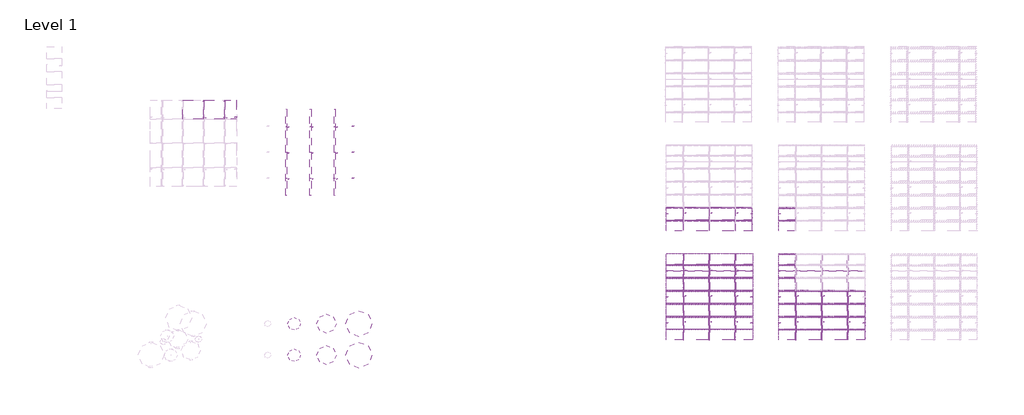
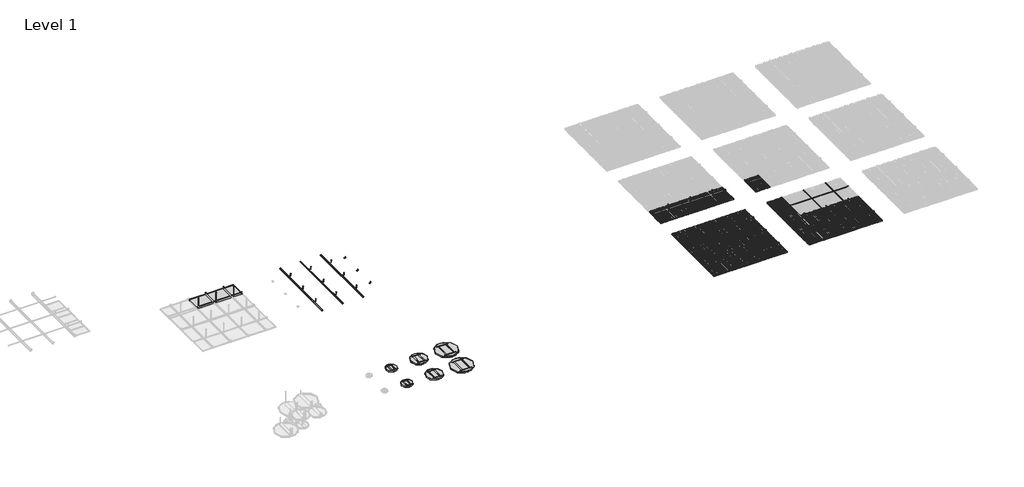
# One storey, part 10 of 32: 136 proxies.
"""IFC4 building model written with IfcOpenShell, lengths in millimetres."""

from ifc_helpers import new_model, si_unit, origin, place, context, project, spatial, transform, mapped, element, save
from components import generic_models_f4ce44e0, generic_models_7b14c66c, generic_models_6a16b8e9, generic_models_f8a980df, generic_models_c359a8ca, generic_models_b45cf8b7, generic_models_08d26d29, generic_models_ed86a27e, generic_models_145bddcd, generic_models_58272551, generic_models_21e3bb4c, generic_models_b3dbf1f4, generic_models_706eee53, generic_models_723ebf24, generic_models_29d42799, generic_models_36cb1d09, generic_models_96b5d85b, generic_models_f6474ad0, generic_models_de489b00, generic_models_cba988bb, generic_models_f79c98f9, generic_models_96ebd3ea, generic_models_197b3773, generic_models_3130f17a, generic_models_9e18e937, generic_models_28f6a95c, generic_models_4432ad25, generic_models_d4a175eb, generic_models_9ccf16c1, generic_models_13996165, generic_models_57176d63

model = new_model("IFC4")

# Units and contexts
model_context = context("Model", 3, world=origin())
ifc_project = project(units=[si_unit("LENGTHUNIT", "METRE", prefix="MILLI")], contexts=[model_context])

# Site, building, storey
site = spatial("IfcSite", under=ifc_project)
building = spatial("IfcBuilding", under=site)
storey = spatial("IfcBuildingStorey", under=building, Name="Level 1", Elevation=0.0)

# Proxies
placement = place(None, origin())
generic_models_shape = generic_models_f4ce44e0(model_context)
element("IfcBuildingElementProxy", 1, Name="durlum_U94 : durlum_U94", ObjectType="durlum_U94 : durlum_U94", at=placement, inside=storey, context=model_context, shape_type="MappedRepresentation", body=[
    mapped(generic_models_shape, transform((36018.6409714, -12159.3698822, 3724.0), x_axis=(0.0, 1.0, 0.0), y_axis=(-1.0, 0.0, 0.0), z_axis=(0.0, 0.0, 1.0))),
])
element("IfcBuildingElementProxy", 2, Name="durlum_U94 : durlum_U94", ObjectType="durlum_U94 : durlum_U94", at=placement, inside=storey, context=model_context, shape_type="MappedRepresentation", body=[
    mapped(generic_models_shape, transform((34818.6409714, -12159.3698822, 3724.0), x_axis=(0.0, 1.0, 0.0), y_axis=(-1.0, 0.0, 0.0), z_axis=(0.0, 0.0, 1.0))),
])
element("IfcBuildingElementProxy", 3, Name="durlum_U94 : durlum_U94", ObjectType="durlum_U94 : durlum_U94", at=placement, inside=storey, context=model_context, shape_type="MappedRepresentation", body=[
    mapped(generic_models_shape, transform((37218.6409714, -12159.3698822, 3724.0), x_axis=(0.0, 1.0, 0.0), y_axis=(-1.0, 0.0, 0.0), z_axis=(0.0, 0.0, 1.0))),
])
element("IfcBuildingElementProxy", 4, Name="durlum_U94 : durlum_U94", ObjectType="durlum_U94 : durlum_U94", at=placement, inside=storey, context=model_context, shape_type="MappedRepresentation", body=[
    mapped(generic_models_shape, transform((41218.6409714, -12159.3698822, 3724.0), x_axis=(0.0, 1.0, 0.0), y_axis=(-1.0, 0.0, 0.0), z_axis=(0.0, 0.0, 1.0))),
])
element("IfcBuildingElementProxy", 5, Name="durlum_U94 : durlum_U94", ObjectType="durlum_U94 : durlum_U94", at=placement, inside=storey, context=model_context, shape_type="MappedRepresentation", body=[
    mapped(generic_models_shape, transform((40018.6409714, -12159.3698822, 3724.0), x_axis=(0.0, 1.0, 0.0), y_axis=(-1.0, 0.0, 0.0), z_axis=(0.0, 0.0, 1.0))),
])
element("IfcBuildingElementProxy", 6, Name="durlum_U94 : durlum_U94", ObjectType="durlum_U94 : durlum_U94", at=placement, inside=storey, context=model_context, shape_type="MappedRepresentation", body=[
    mapped(generic_models_shape, transform((42418.6409714, -12159.3698822, 3724.0), x_axis=(0.0, 1.0, 0.0), y_axis=(-1.0, 0.0, 0.0), z_axis=(0.0, 0.0, 1.0))),
])
generic_models_2_shape = generic_models_7b14c66c(model_context)
element("IfcBuildingElementProxy", 7, Name="durlum_GEO_panel : durlum_GEO_9", ObjectType="durlum_GEO_panel : durlum_GEO_9", at=placement, inside=storey, context=model_context, shape_type="MappedRepresentation", body=[
    mapped(generic_models_2_shape, transform((35412.2666746, -8312.09776, 3700.0), x_axis=(1.0, 0.0, 0.0), y_axis=(0.0, 1.0, 0.0), z_axis=(0.0, 0.0, 1.0))),
])
element("IfcBuildingElementProxy", 8, Name="durlum_GEO_panel : durlum_GEO_9", ObjectType="durlum_GEO_panel : durlum_GEO_9", at=placement, inside=storey, context=model_context, shape_type="MappedRepresentation", body=[
    mapped(generic_models_2_shape, transform((36612.2666746, -8312.09776, 3700.0), x_axis=(1.0, 0.0, 0.0), y_axis=(0.0, 1.0, 0.0), z_axis=(0.0, 0.0, 1.0))),
])
generic_models_3_shape = generic_models_6a16b8e9(model_context)
element("IfcBuildingElementProxy", 9, Name="durlum_GEO_panel : durlum_GEO_9_width_cut", ObjectType="durlum_GEO_panel : durlum_GEO_9_width_cut", at=placement, inside=storey, context=model_context, shape_type="MappedRepresentation", body=[
    mapped(generic_models_3_shape, transform((35412.2666746, -8862.09776, 3700.0), x_axis=(1.0, 0.0, 0.0), y_axis=(0.0, 1.0, 0.0), z_axis=(0.0, 0.0, 1.0))),
])
element("IfcBuildingElementProxy", 10, Name="durlum_GEO_panel : durlum_GEO_9_width_cut", ObjectType="durlum_GEO_panel : durlum_GEO_9_width_cut", at=placement, inside=storey, context=model_context, shape_type="MappedRepresentation", body=[
    mapped(generic_models_3_shape, transform((36612.2666746, -8862.09776, 3700.0), x_axis=(1.0, 0.0, 0.0), y_axis=(0.0, 1.0, 0.0), z_axis=(0.0, 0.0, 1.0))),
])
generic_models_4_shape = generic_models_f8a980df(model_context)
element("IfcBuildingElementProxy", 11, Name="durlum_GEO_panel : durlum_GEO_15", ObjectType="durlum_GEO_panel : durlum_GEO_15", at=placement, inside=storey, context=model_context, shape_type="MappedRepresentation", body=[
    mapped(generic_models_4_shape, transform((35418.6409714, -12759.3698822, 3700.0), x_axis=(1.0, 0.0, 0.0), y_axis=(0.0, 1.0, 0.0), z_axis=(0.0, 0.0, 1.0))),
])
element("IfcBuildingElementProxy", 12, Name="durlum_GEO_panel : durlum_GEO_15", ObjectType="durlum_GEO_panel : durlum_GEO_15", at=placement, inside=storey, context=model_context, shape_type="MappedRepresentation", body=[
    mapped(generic_models_4_shape, transform((36618.6409714, -12759.3698822, 3700.0), x_axis=(1.0, 0.0, 0.0), y_axis=(0.0, 1.0, 0.0), z_axis=(0.0, 0.0, 1.0))),
])
element("IfcBuildingElementProxy", 13, Name="durlum_GEO_panel : durlum_GEO_15", ObjectType="durlum_GEO_panel : durlum_GEO_15", at=placement, inside=storey, context=model_context, shape_type="MappedRepresentation", body=[
    mapped(generic_models_4_shape, transform((35418.6409714, -12159.3698822, 3700.0), x_axis=(1.0, 0.0, 0.0), y_axis=(0.0, 1.0, 0.0), z_axis=(0.0, 0.0, 1.0))),
])
element("IfcBuildingElementProxy", 14, Name="durlum_GEO_panel : durlum_GEO_15", ObjectType="durlum_GEO_panel : durlum_GEO_15", at=placement, inside=storey, context=model_context, shape_type="MappedRepresentation", body=[
    mapped(generic_models_4_shape, transform((36618.6409714, -12159.3698822, 3700.0), x_axis=(1.0, 0.0, 0.0), y_axis=(0.0, 1.0, 0.0), z_axis=(0.0, 0.0, 1.0))),
])
element("IfcBuildingElementProxy", 15, Name="durlum_GEO_panel : durlum_GEO_15", ObjectType="durlum_GEO_panel : durlum_GEO_15", at=placement, inside=storey, context=model_context, shape_type="MappedRepresentation", body=[
    mapped(generic_models_4_shape, transform((35418.6409714, -11559.3698822, 3700.0), x_axis=(1.0, 0.0, 0.0), y_axis=(0.0, 1.0, 0.0), z_axis=(0.0, 0.0, 1.0))),
])
element("IfcBuildingElementProxy", 16, Name="durlum_GEO_panel : durlum_GEO_15", ObjectType="durlum_GEO_panel : durlum_GEO_15", at=placement, inside=storey, context=model_context, shape_type="MappedRepresentation", body=[
    mapped(generic_models_4_shape, transform((36618.6409714, -11559.3698822, 3700.0), x_axis=(1.0, 0.0, 0.0), y_axis=(0.0, 1.0, 0.0), z_axis=(0.0, 0.0, 1.0))),
])
element("IfcBuildingElementProxy", 17, Name="durlum_GEO_panel : durlum_GEO_15", ObjectType="durlum_GEO_panel : durlum_GEO_15", at=placement, inside=storey, context=model_context, shape_type="MappedRepresentation", body=[
    mapped(generic_models_4_shape, transform((35418.6409714, -10959.3698822, 3700.0), x_axis=(1.0, 0.0, 0.0), y_axis=(0.0, 1.0, 0.0), z_axis=(0.0, 0.0, 1.0))),
])
element("IfcBuildingElementProxy", 18, Name="durlum_GEO_panel : durlum_GEO_15", ObjectType="durlum_GEO_panel : durlum_GEO_15", at=placement, inside=storey, context=model_context, shape_type="MappedRepresentation", body=[
    mapped(generic_models_4_shape, transform((36618.6409714, -10959.3698822, 3700.0), x_axis=(1.0, 0.0, 0.0), y_axis=(0.0, 1.0, 0.0), z_axis=(0.0, 0.0, 1.0))),
])
element("IfcBuildingElementProxy", 19, Name="durlum_GEO_panel : durlum_GEO_15", ObjectType="durlum_GEO_panel : durlum_GEO_15", at=placement, inside=storey, context=model_context, shape_type="MappedRepresentation", body=[
    mapped(generic_models_4_shape, transform((35418.6409714, -13359.3698822, 3700.0), x_axis=(1.0, 0.0, 0.0), y_axis=(0.0, 1.0, 0.0), z_axis=(0.0, 0.0, 1.0))),
])
element("IfcBuildingElementProxy", 20, Name="durlum_GEO_panel : durlum_GEO_15", ObjectType="durlum_GEO_panel : durlum_GEO_15", at=placement, inside=storey, context=model_context, shape_type="MappedRepresentation", body=[
    mapped(generic_models_4_shape, transform((36618.6409714, -13359.3698822, 3700.0), x_axis=(1.0, 0.0, 0.0), y_axis=(0.0, 1.0, 0.0), z_axis=(0.0, 0.0, 1.0))),
])
generic_models_5_shape = generic_models_c359a8ca(model_context)
element("IfcBuildingElementProxy", 21, Name="durlum_GEO_panel : durlum_GEO_15_width_cut", ObjectType="durlum_GEO_panel : durlum_GEO_15_width_cut", at=placement, inside=storey, context=model_context, shape_type="MappedRepresentation", body=[
    mapped(generic_models_5_shape, transform((35418.6409714, -13909.3698822, 3700.0), x_axis=(1.0, 0.0, 0.0), y_axis=(0.0, 1.0, 0.0), z_axis=(0.0, 0.0, 1.0))),
])
element("IfcBuildingElementProxy", 22, Name="durlum_GEO_panel : durlum_GEO_15_width_cut", ObjectType="durlum_GEO_panel : durlum_GEO_15_width_cut", at=placement, inside=storey, context=model_context, shape_type="MappedRepresentation", body=[
    mapped(generic_models_5_shape, transform((35418.6409714, -10409.3698822, 3700.0), x_axis=(1.0, 0.0, 0.0), y_axis=(0.0, 1.0, 0.0), z_axis=(0.0, 0.0, 1.0))),
])
element("IfcBuildingElementProxy", 23, Name="durlum_GEO_panel : durlum_GEO_15_width_cut", ObjectType="durlum_GEO_panel : durlum_GEO_15_width_cut", at=placement, inside=storey, context=model_context, shape_type="MappedRepresentation", body=[
    mapped(generic_models_5_shape, transform((36618.6409714, -13909.3698822, 3700.0), x_axis=(1.0, 0.0, 0.0), y_axis=(0.0, 1.0, 0.0), z_axis=(0.0, 0.0, 1.0))),
])
element("IfcBuildingElementProxy", 24, Name="durlum_GEO_panel : durlum_GEO_15_width_cut", ObjectType="durlum_GEO_panel : durlum_GEO_15_width_cut", at=placement, inside=storey, context=model_context, shape_type="MappedRepresentation", body=[
    mapped(generic_models_5_shape, transform((36618.6409714, -10409.3698822, 3700.0), x_axis=(1.0, 0.0, 0.0), y_axis=(0.0, 1.0, 0.0), z_axis=(0.0, 0.0, 1.0))),
])
generic_models_6_shape = generic_models_b45cf8b7(model_context)
element("IfcBuildingElementProxy", 25, Name="durlum_GEO_panel : durlum_GEO_15", ObjectType="durlum_GEO_panel : durlum_GEO_15", at=placement, inside=storey, context=model_context, shape_type="MappedRepresentation", body=[
    mapped(generic_models_6_shape, transform((40618.6409714, -12759.3698822, 3700.0), x_axis=(1.0, 0.0, 0.0), y_axis=(0.0, 1.0, 0.0), z_axis=(0.0, 0.0, 1.0))),
])
element("IfcBuildingElementProxy", 26, Name="durlum_GEO_panel : durlum_GEO_15", ObjectType="durlum_GEO_panel : durlum_GEO_15", at=placement, inside=storey, context=model_context, shape_type="MappedRepresentation", body=[
    mapped(generic_models_6_shape, transform((41818.6409714, -12759.3698822, 3700.0), x_axis=(1.0, 0.0, 0.0), y_axis=(0.0, 1.0, 0.0), z_axis=(0.0, 0.0, 1.0))),
])
element("IfcBuildingElementProxy", 27, Name="durlum_GEO_panel : durlum_GEO_15", ObjectType="durlum_GEO_panel : durlum_GEO_15", at=placement, inside=storey, context=model_context, shape_type="MappedRepresentation", body=[
    mapped(generic_models_6_shape, transform((40618.6409714, -12159.3698822, 3700.0), x_axis=(1.0, 0.0, 0.0), y_axis=(0.0, 1.0, 0.0), z_axis=(0.0, 0.0, 1.0))),
])
element("IfcBuildingElementProxy", 28, Name="durlum_GEO_panel : durlum_GEO_15", ObjectType="durlum_GEO_panel : durlum_GEO_15", at=placement, inside=storey, context=model_context, shape_type="MappedRepresentation", body=[
    mapped(generic_models_6_shape, transform((41818.6409714, -12159.3698822, 3700.0), x_axis=(1.0, 0.0, 0.0), y_axis=(0.0, 1.0, 0.0), z_axis=(0.0, 0.0, 1.0))),
])
element("IfcBuildingElementProxy", 29, Name="durlum_GEO_panel : durlum_GEO_15", ObjectType="durlum_GEO_panel : durlum_GEO_15", at=placement, inside=storey, context=model_context, shape_type="MappedRepresentation", body=[
    mapped(generic_models_6_shape, transform((40618.6409714, -13359.3698822, 3700.0), x_axis=(1.0, 0.0, 0.0), y_axis=(0.0, 1.0, 0.0), z_axis=(0.0, 0.0, 1.0))),
])
element("IfcBuildingElementProxy", 30, Name="durlum_GEO_panel : durlum_GEO_15", ObjectType="durlum_GEO_panel : durlum_GEO_15", at=placement, inside=storey, context=model_context, shape_type="MappedRepresentation", body=[
    mapped(generic_models_6_shape, transform((41818.6409714, -13359.3698822, 3700.0), x_axis=(1.0, 0.0, 0.0), y_axis=(0.0, 1.0, 0.0), z_axis=(0.0, 0.0, 1.0))),
])
generic_models_7_shape = generic_models_08d26d29(model_context)
element("IfcBuildingElementProxy", 31, Name="durlum_GEO_panel : durlum_GEO_15_width_cut", ObjectType="durlum_GEO_panel : durlum_GEO_15_width_cut", at=placement, inside=storey, context=model_context, shape_type="MappedRepresentation", body=[
    mapped(generic_models_7_shape, transform((40618.6409714, -13909.3698822, 3700.0), x_axis=(1.0, 0.0, 0.0), y_axis=(0.0, 1.0, 0.0), z_axis=(0.0, 0.0, 1.0))),
])
element("IfcBuildingElementProxy", 32, Name="durlum_GEO_panel : durlum_GEO_15_width_cut", ObjectType="durlum_GEO_panel : durlum_GEO_15_width_cut", at=placement, inside=storey, context=model_context, shape_type="MappedRepresentation", body=[
    mapped(generic_models_7_shape, transform((41818.6409714, -13909.3698822, 3700.0), x_axis=(1.0, 0.0, 0.0), y_axis=(0.0, 1.0, 0.0), z_axis=(0.0, 0.0, 1.0))),
])
generic_models_8_shape = generic_models_ed86a27e(model_context)
element("IfcBuildingElementProxy", 33, Name="durlum_GEO_15 : durlum_GEO_15", ObjectType="durlum_GEO_15 : durlum_GEO_15", at=placement, inside=storey, context=model_context, shape_type="MappedRepresentation", body=[
    mapped(generic_models_8_shape, transform((36018.6409714, -12159.3698822, 0.0), x_axis=(1.0, 0.0, 0.0), y_axis=(0.0, 1.0, 0.0), z_axis=(0.0, 0.0, 1.0))),
])
generic_models_9_shape = generic_models_145bddcd(model_context)
element("IfcBuildingElementProxy", 34, Name="durlum_GEO_panel : durlum_GEO_9_length_cut", ObjectType="durlum_GEO_panel : durlum_GEO_9_length_cut", at=placement, inside=storey, context=model_context, shape_type="MappedRepresentation", body=[
    mapped(generic_models_9_shape, transform((34415.203823, -8312.09776, 3700.0), x_axis=(1.0, 0.0, 0.0), y_axis=(0.0, 1.0, 0.0), z_axis=(0.0, 0.0, 1.0))),
])
element("IfcBuildingElementProxy", 35, Name="durlum_GEO_panel : durlum_GEO_9_length_cut", ObjectType="durlum_GEO_panel : durlum_GEO_9_length_cut", at=placement, inside=storey, context=model_context, shape_type="MappedRepresentation", body=[
    mapped(generic_models_9_shape, transform((37609.3295262, -8312.09776, 3700.0), x_axis=(1.0, 0.0, 0.0), y_axis=(0.0, 1.0, 0.0), z_axis=(0.0, 0.0, 1.0))),
])
generic_models_10_shape = generic_models_58272551(model_context)
element("IfcBuildingElementProxy", 36, Name="durlum_GEO_panel : durlum_GEO_9_corner_cut", ObjectType="durlum_GEO_panel : durlum_GEO_9_corner_cut", at=placement, inside=storey, context=model_context, shape_type="MappedRepresentation", body=[
    mapped(generic_models_10_shape, transform((34415.203823, -8862.09776, 3700.0), x_axis=(1.0, 0.0, 0.0), y_axis=(0.0, 1.0, 0.0), z_axis=(0.0, 0.0, 1.0))),
])
element("IfcBuildingElementProxy", 37, Name="durlum_GEO_panel : durlum_GEO_9_corner_cut", ObjectType="durlum_GEO_panel : durlum_GEO_9_corner_cut", at=placement, inside=storey, context=model_context, shape_type="MappedRepresentation", body=[
    mapped(generic_models_10_shape, transform((37609.3295262, -8862.09776, 3700.0), x_axis=(1.0, 0.0, 0.0), y_axis=(0.0, 1.0, 0.0), z_axis=(0.0, 0.0, 1.0))),
])
generic_models_11_shape = generic_models_21e3bb4c(model_context)
element("IfcBuildingElementProxy", 38, Name="durlum_GEO_panel : durlum_GEO_15_length_cut", ObjectType="durlum_GEO_panel : durlum_GEO_15_length_cut", at=placement, inside=storey, context=model_context, shape_type="MappedRepresentation", body=[
    mapped(generic_models_11_shape, transform((34418.3909714, -11559.3698822, 3700.0), x_axis=(1.0, 0.0, 0.0), y_axis=(0.0, 1.0, 0.0), z_axis=(0.0, 0.0, 1.0))),
])
element("IfcBuildingElementProxy", 39, Name="durlum_GEO_panel : durlum_GEO_15_length_cut", ObjectType="durlum_GEO_panel : durlum_GEO_15_length_cut", at=placement, inside=storey, context=model_context, shape_type="MappedRepresentation", body=[
    mapped(generic_models_11_shape, transform((34418.3909714, -12159.3698822, 3700.0), x_axis=(1.0, 0.0, 0.0), y_axis=(0.0, 1.0, 0.0), z_axis=(0.0, 0.0, 1.0))),
])
element("IfcBuildingElementProxy", 40, Name="durlum_GEO_panel : durlum_GEO_15_length_cut", ObjectType="durlum_GEO_panel : durlum_GEO_15_length_cut", at=placement, inside=storey, context=model_context, shape_type="MappedRepresentation", body=[
    mapped(generic_models_11_shape, transform((34418.3909714, -12759.3698822, 3700.0), x_axis=(1.0, 0.0, 0.0), y_axis=(0.0, 1.0, 0.0), z_axis=(0.0, 0.0, 1.0))),
])
element("IfcBuildingElementProxy", 41, Name="durlum_GEO_panel : durlum_GEO_15_length_cut", ObjectType="durlum_GEO_panel : durlum_GEO_15_length_cut", at=placement, inside=storey, context=model_context, shape_type="MappedRepresentation", body=[
    mapped(generic_models_11_shape, transform((37618.8909714, -11559.3698822, 3700.0), x_axis=(1.0, 0.0, 0.0), y_axis=(0.0, 1.0, 0.0), z_axis=(0.0, 0.0, 1.0))),
])
element("IfcBuildingElementProxy", 42, Name="durlum_GEO_panel : durlum_GEO_15_length_cut", ObjectType="durlum_GEO_panel : durlum_GEO_15_length_cut", at=placement, inside=storey, context=model_context, shape_type="MappedRepresentation", body=[
    mapped(generic_models_11_shape, transform((37618.8909714, -12159.3698822, 3700.0), x_axis=(1.0, 0.0, 0.0), y_axis=(0.0, 1.0, 0.0), z_axis=(0.0, 0.0, 1.0))),
])
element("IfcBuildingElementProxy", 43, Name="durlum_GEO_panel : durlum_GEO_15_length_cut", ObjectType="durlum_GEO_panel : durlum_GEO_15_length_cut", at=placement, inside=storey, context=model_context, shape_type="MappedRepresentation", body=[
    mapped(generic_models_11_shape, transform((37618.8909714, -12759.3698822, 3700.0), x_axis=(1.0, 0.0, 0.0), y_axis=(0.0, 1.0, 0.0), z_axis=(0.0, 0.0, 1.0))),
])
element("IfcBuildingElementProxy", 44, Name="durlum_GEO_panel : durlum_GEO_15_length_cut", ObjectType="durlum_GEO_panel : durlum_GEO_15_length_cut", at=placement, inside=storey, context=model_context, shape_type="MappedRepresentation", body=[
    mapped(generic_models_11_shape, transform((37618.8909714, -10959.3698822, 3700.0), x_axis=(1.0, 0.0, 0.0), y_axis=(0.0, 1.0, 0.0), z_axis=(0.0, 0.0, 1.0))),
])
element("IfcBuildingElementProxy", 45, Name="durlum_GEO_panel : durlum_GEO_15_length_cut", ObjectType="durlum_GEO_panel : durlum_GEO_15_length_cut", at=placement, inside=storey, context=model_context, shape_type="MappedRepresentation", body=[
    mapped(generic_models_11_shape, transform((34418.3909714, -10959.3698822, 3700.0), x_axis=(1.0, 0.0, 0.0), y_axis=(0.0, 1.0, 0.0), z_axis=(0.0, 0.0, 1.0))),
])
element("IfcBuildingElementProxy", 46, Name="durlum_GEO_panel : durlum_GEO_15_length_cut", ObjectType="durlum_GEO_panel : durlum_GEO_15_length_cut", at=placement, inside=storey, context=model_context, shape_type="MappedRepresentation", body=[
    mapped(generic_models_11_shape, transform((34418.3909714, -13359.3698822, 3700.0), x_axis=(1.0, 0.0, 0.0), y_axis=(0.0, 1.0, 0.0), z_axis=(0.0, 0.0, 1.0))),
])
element("IfcBuildingElementProxy", 47, Name="durlum_GEO_panel : durlum_GEO_15_length_cut", ObjectType="durlum_GEO_panel : durlum_GEO_15_length_cut", at=placement, inside=storey, context=model_context, shape_type="MappedRepresentation", body=[
    mapped(generic_models_11_shape, transform((37618.8909714, -13359.3698822, 3700.0), x_axis=(1.0, 0.0, 0.0), y_axis=(0.0, 1.0, 0.0), z_axis=(0.0, 0.0, 1.0))),
])
generic_models_12_shape = generic_models_b3dbf1f4(model_context)
element("IfcBuildingElementProxy", 48, Name="durlum_GEO_panel : durlum_GEO_15_corner_cut", ObjectType="durlum_GEO_panel : durlum_GEO_15_corner_cut", at=placement, inside=storey, context=model_context, shape_type="MappedRepresentation", body=[
    mapped(generic_models_12_shape, transform((37618.8909714, -10409.3698822, 3700.0), x_axis=(1.0, 0.0, 0.0), y_axis=(0.0, 1.0, 0.0), z_axis=(0.0, 0.0, 1.0))),
])
element("IfcBuildingElementProxy", 49, Name="durlum_GEO_panel : durlum_GEO_15_corner_cut", ObjectType="durlum_GEO_panel : durlum_GEO_15_corner_cut", at=placement, inside=storey, context=model_context, shape_type="MappedRepresentation", body=[
    mapped(generic_models_12_shape, transform((34418.3909714, -10409.3698822, 3700.0), x_axis=(1.0, 0.0, 0.0), y_axis=(0.0, 1.0, 0.0), z_axis=(0.0, 0.0, 1.0))),
])
element("IfcBuildingElementProxy", 50, Name="durlum_GEO_panel : durlum_GEO_15_corner_cut", ObjectType="durlum_GEO_panel : durlum_GEO_15_corner_cut", at=placement, inside=storey, context=model_context, shape_type="MappedRepresentation", body=[
    mapped(generic_models_12_shape, transform((34418.3909714, -13909.3698822, 3700.0), x_axis=(1.0, 0.0, 0.0), y_axis=(0.0, 1.0, 0.0), z_axis=(0.0, 0.0, 1.0))),
])
element("IfcBuildingElementProxy", 51, Name="durlum_GEO_panel : durlum_GEO_15_corner_cut", ObjectType="durlum_GEO_panel : durlum_GEO_15_corner_cut", at=placement, inside=storey, context=model_context, shape_type="MappedRepresentation", body=[
    mapped(generic_models_12_shape, transform((37618.8909714, -13909.3698822, 3700.0), x_axis=(1.0, 0.0, 0.0), y_axis=(0.0, 1.0, 0.0), z_axis=(0.0, 0.0, 1.0))),
])
element("IfcBuildingElementProxy", 52, Name="durlum_GEO_15 : durlum_GEO_15", ObjectType="durlum_GEO_15 : durlum_GEO_15", at=placement, inside=storey, context=model_context, shape_type="MappedRepresentation", body=[
    mapped(generic_models_8_shape, transform((41218.6409714, -12159.3698822, 0.0), x_axis=(1.0, 0.0, 0.0), y_axis=(0.0, 1.0, 0.0), z_axis=(0.0, 0.0, 1.0))),
])
generic_models_13_shape = generic_models_706eee53(model_context)
element("IfcBuildingElementProxy", 53, Name="durlum_GEO_panel : durlum_GEO_9_length_cut", ObjectType="durlum_GEO_panel : durlum_GEO_9_length_cut", at=placement, inside=storey, context=model_context, shape_type="MappedRepresentation", body=[
    mapped(generic_models_13_shape, transform((39615.203823, -8312.09776, 3700.0), x_axis=(1.0, 0.0, 0.0), y_axis=(0.0, 1.0, 0.0), z_axis=(0.0, 0.0, 1.0))),
])
generic_models_14_shape = generic_models_723ebf24(model_context)
element("IfcBuildingElementProxy", 54, Name="durlum_GEO_panel : durlum_GEO_9_corner_cut", ObjectType="durlum_GEO_panel : durlum_GEO_9_corner_cut", at=placement, inside=storey, context=model_context, shape_type="MappedRepresentation", body=[
    mapped(generic_models_14_shape, transform((39615.203823, -8862.09776, 3700.0), x_axis=(1.0, 0.0, 0.0), y_axis=(0.0, 1.0, 0.0), z_axis=(0.0, 0.0, 1.0))),
])
generic_models_15_shape = generic_models_29d42799(model_context)
element("IfcBuildingElementProxy", 55, Name="durlum_GEO_panel : durlum_GEO_15_length_cut", ObjectType="durlum_GEO_panel : durlum_GEO_15_length_cut", at=placement, inside=storey, context=model_context, shape_type="MappedRepresentation", body=[
    mapped(generic_models_15_shape, transform((39618.3909714, -11559.3698822, 3700.0), x_axis=(1.0, 0.0, 0.0), y_axis=(0.0, 1.0, 0.0), z_axis=(0.0, 0.0, 1.0))),
])
element("IfcBuildingElementProxy", 56, Name="durlum_GEO_panel : durlum_GEO_15_length_cut", ObjectType="durlum_GEO_panel : durlum_GEO_15_length_cut", at=placement, inside=storey, context=model_context, shape_type="MappedRepresentation", body=[
    mapped(generic_models_15_shape, transform((39618.3909714, -12159.3698822, 3700.0), x_axis=(1.0, 0.0, 0.0), y_axis=(0.0, 1.0, 0.0), z_axis=(0.0, 0.0, 1.0))),
])
element("IfcBuildingElementProxy", 57, Name="durlum_GEO_panel : durlum_GEO_15_length_cut", ObjectType="durlum_GEO_panel : durlum_GEO_15_length_cut", at=placement, inside=storey, context=model_context, shape_type="MappedRepresentation", body=[
    mapped(generic_models_15_shape, transform((39618.3909714, -12759.3698822, 3700.0), x_axis=(1.0, 0.0, 0.0), y_axis=(0.0, 1.0, 0.0), z_axis=(0.0, 0.0, 1.0))),
])
element("IfcBuildingElementProxy", 58, Name="durlum_GEO_panel : durlum_GEO_15_length_cut", ObjectType="durlum_GEO_panel : durlum_GEO_15_length_cut", at=placement, inside=storey, context=model_context, shape_type="MappedRepresentation", body=[
    mapped(generic_models_15_shape, transform((42818.8909714, -12159.3698822, 3700.0), x_axis=(1.0, 0.0, 0.0), y_axis=(0.0, 1.0, 0.0), z_axis=(0.0, 0.0, 1.0))),
])
element("IfcBuildingElementProxy", 59, Name="durlum_GEO_panel : durlum_GEO_15_length_cut", ObjectType="durlum_GEO_panel : durlum_GEO_15_length_cut", at=placement, inside=storey, context=model_context, shape_type="MappedRepresentation", body=[
    mapped(generic_models_15_shape, transform((42818.8909714, -12759.3698822, 3700.0), x_axis=(1.0, 0.0, 0.0), y_axis=(0.0, 1.0, 0.0), z_axis=(0.0, 0.0, 1.0))),
])
element("IfcBuildingElementProxy", 60, Name="durlum_GEO_panel : durlum_GEO_15_length_cut", ObjectType="durlum_GEO_panel : durlum_GEO_15_length_cut", at=placement, inside=storey, context=model_context, shape_type="MappedRepresentation", body=[
    mapped(generic_models_15_shape, transform((39618.3909714, -10959.3698822, 3700.0), x_axis=(1.0, 0.0, 0.0), y_axis=(0.0, 1.0, 0.0), z_axis=(0.0, 0.0, 1.0))),
])
element("IfcBuildingElementProxy", 61, Name="durlum_GEO_panel : durlum_GEO_15_length_cut", ObjectType="durlum_GEO_panel : durlum_GEO_15_length_cut", at=placement, inside=storey, context=model_context, shape_type="MappedRepresentation", body=[
    mapped(generic_models_15_shape, transform((39618.3909714, -13359.3698822, 3700.0), x_axis=(1.0, 0.0, 0.0), y_axis=(0.0, 1.0, 0.0), z_axis=(0.0, 0.0, 1.0))),
])
element("IfcBuildingElementProxy", 62, Name="durlum_GEO_panel : durlum_GEO_15_length_cut", ObjectType="durlum_GEO_panel : durlum_GEO_15_length_cut", at=placement, inside=storey, context=model_context, shape_type="MappedRepresentation", body=[
    mapped(generic_models_15_shape, transform((42818.8909714, -13359.3698822, 3700.0), x_axis=(1.0, 0.0, 0.0), y_axis=(0.0, 1.0, 0.0), z_axis=(0.0, 0.0, 1.0))),
])
generic_models_16_shape = generic_models_36cb1d09(model_context)
element("IfcBuildingElementProxy", 63, Name="durlum_GEO_panel : durlum_GEO_15_corner_cut", ObjectType="durlum_GEO_panel : durlum_GEO_15_corner_cut", at=placement, inside=storey, context=model_context, shape_type="MappedRepresentation", body=[
    mapped(generic_models_16_shape, transform((39618.3909714, -10409.3698822, 3700.0), x_axis=(1.0, 0.0, 0.0), y_axis=(0.0, 1.0, 0.0), z_axis=(0.0, 0.0, 1.0))),
])
element("IfcBuildingElementProxy", 64, Name="durlum_GEO_panel : durlum_GEO_15_corner_cut", ObjectType="durlum_GEO_panel : durlum_GEO_15_corner_cut", at=placement, inside=storey, context=model_context, shape_type="MappedRepresentation", body=[
    mapped(generic_models_16_shape, transform((39618.3909714, -13909.3698822, 3700.0), x_axis=(1.0, 0.0, 0.0), y_axis=(0.0, 1.0, 0.0), z_axis=(0.0, 0.0, 1.0))),
])
element("IfcBuildingElementProxy", 65, Name="durlum_GEO_panel : durlum_GEO_15_corner_cut", ObjectType="durlum_GEO_panel : durlum_GEO_15_corner_cut", at=placement, inside=storey, context=model_context, shape_type="MappedRepresentation", body=[
    mapped(generic_models_16_shape, transform((42818.8909714, -13909.3698822, 3700.0), x_axis=(1.0, 0.0, 0.0), y_axis=(0.0, 1.0, 0.0), z_axis=(0.0, 0.0, 1.0))),
])
generic_models_17_shape = generic_models_96b5d85b(model_context)
element("IfcBuildingElementProxy", 66, Name="durlum_U1300 : durlum_U1300", ObjectType="durlum_U1300 : durlum_U1300", at=placement, inside=storey, context=model_context, shape_type="MappedRepresentation", body=[
    mapped(generic_models_17_shape, transform((13703.4096894, -3861.5279399, 2753.4124682), x_axis=(1.0, 0.0, 0.0), y_axis=(0.0, 1.0, 0.0), z_axis=(0.0, 0.0, 1.0))),
])
element("IfcBuildingElementProxy", 67, Name="durlum_U1300 : durlum_U1300", ObjectType="durlum_U1300 : durlum_U1300", at=placement, inside=storey, context=model_context, shape_type="MappedRepresentation", body=[
    mapped(generic_models_17_shape, transform((12737.4096894, -3861.5279399, 2753.4124682), x_axis=(1.0, 0.0, 0.0), y_axis=(0.0, 1.0, 0.0), z_axis=(0.0, 0.0, 1.0))),
])
generic_models_18_shape = generic_models_f6474ad0(model_context)
element("IfcBuildingElementProxy", 68, Name="durlum_U1300 : durlum_U1300", ObjectType="durlum_U1300 : durlum_U1300", at=placement, inside=storey, context=model_context, shape_type="MappedRepresentation", body=[
    mapped(generic_models_18_shape, transform((34912.2666746, -8312.09776, 2999.4124682), x_axis=(-1.0, 0.0, 0.0), y_axis=(0.0, -1.0, 0.0), z_axis=(0.0, 0.0, 1.0))),
])
element("IfcBuildingElementProxy", 69, Name="durlum_U1300 : durlum_U1300", ObjectType="durlum_U1300 : durlum_U1300", at=placement, inside=storey, context=model_context, shape_type="MappedRepresentation", body=[
    mapped(generic_models_18_shape, transform((37312.2666746, -8312.09776, 2999.4124682), x_axis=(-1.0, 0.0, 0.0), y_axis=(0.0, -1.0, 0.0), z_axis=(0.0, 0.0, 1.0))),
])
element("IfcBuildingElementProxy", 70, Name="durlum_U1300 : durlum_U1300", ObjectType="durlum_U1300 : durlum_U1300", at=placement, inside=storey, context=model_context, shape_type="MappedRepresentation", body=[
    mapped(generic_models_18_shape, transform((36112.2666746, -8312.09776, 2999.4124682), x_axis=(-1.0, 0.0, 0.0), y_axis=(0.0, -1.0, 0.0), z_axis=(0.0, 0.0, 1.0))),
])
element("IfcBuildingElementProxy", 71, Name="durlum_U1300 : durlum_U1300", ObjectType="durlum_U1300 : durlum_U1300", at=placement, inside=storey, context=model_context, shape_type="MappedRepresentation", body=[
    mapped(generic_models_18_shape, transform((34918.6409714, -12159.3698822, 2999.4124682), x_axis=(-1.0, 0.0, 0.0), y_axis=(0.0, -1.0, 0.0), z_axis=(0.0, 0.0, 1.0))),
])
element("IfcBuildingElementProxy", 72, Name="durlum_U1300 : durlum_U1300", ObjectType="durlum_U1300 : durlum_U1300", at=placement, inside=storey, context=model_context, shape_type="MappedRepresentation", body=[
    mapped(generic_models_18_shape, transform((37318.6409714, -12159.3698822, 2999.4124682), x_axis=(-1.0, 0.0, 0.0), y_axis=(0.0, -1.0, 0.0), z_axis=(0.0, 0.0, 1.0))),
])
element("IfcBuildingElementProxy", 73, Name="durlum_U1300 : durlum_U1300", ObjectType="durlum_U1300 : durlum_U1300", at=placement, inside=storey, context=model_context, shape_type="MappedRepresentation", body=[
    mapped(generic_models_18_shape, transform((36118.6409714, -12159.3698822, 2999.4124682), x_axis=(-1.0, 0.0, 0.0), y_axis=(0.0, -1.0, 0.0), z_axis=(0.0, 0.0, 1.0))),
])
element("IfcBuildingElementProxy", 74, Name="durlum_U1300 : durlum_U1300", ObjectType="durlum_U1300 : durlum_U1300", at=placement, inside=storey, context=model_context, shape_type="MappedRepresentation", body=[
    mapped(generic_models_18_shape, transform((34918.6409714, -10959.3698822, 2999.4124682), x_axis=(-1.0, 0.0, 0.0), y_axis=(0.0, -1.0, 0.0), z_axis=(0.0, 0.0, 1.0))),
])
element("IfcBuildingElementProxy", 75, Name="durlum_U1300 : durlum_U1300", ObjectType="durlum_U1300 : durlum_U1300", at=placement, inside=storey, context=model_context, shape_type="MappedRepresentation", body=[
    mapped(generic_models_18_shape, transform((37318.6409714, -10959.3698822, 2999.4124682), x_axis=(-1.0, 0.0, 0.0), y_axis=(0.0, -1.0, 0.0), z_axis=(0.0, 0.0, 1.0))),
])
element("IfcBuildingElementProxy", 76, Name="durlum_U1300 : durlum_U1300", ObjectType="durlum_U1300 : durlum_U1300", at=placement, inside=storey, context=model_context, shape_type="MappedRepresentation", body=[
    mapped(generic_models_18_shape, transform((36118.6409714, -10959.3698822, 2999.4124682), x_axis=(-1.0, 0.0, 0.0), y_axis=(0.0, -1.0, 0.0), z_axis=(0.0, 0.0, 1.0))),
])
element("IfcBuildingElementProxy", 77, Name="durlum_U1300 : durlum_U1300", ObjectType="durlum_U1300 : durlum_U1300", at=placement, inside=storey, context=model_context, shape_type="MappedRepresentation", body=[
    mapped(generic_models_18_shape, transform((34918.6409714, -13359.3698822, 2999.4124682), x_axis=(-1.0, 0.0, 0.0), y_axis=(0.0, -1.0, 0.0), z_axis=(0.0, 0.0, 1.0))),
])
element("IfcBuildingElementProxy", 78, Name="durlum_U1300 : durlum_U1300", ObjectType="durlum_U1300 : durlum_U1300", at=placement, inside=storey, context=model_context, shape_type="MappedRepresentation", body=[
    mapped(generic_models_18_shape, transform((37318.6409714, -13359.3698822, 2999.4124682), x_axis=(-1.0, 0.0, 0.0), y_axis=(0.0, -1.0, 0.0), z_axis=(0.0, 0.0, 1.0))),
])
element("IfcBuildingElementProxy", 79, Name="durlum_U1300 : durlum_U1300", ObjectType="durlum_U1300 : durlum_U1300", at=placement, inside=storey, context=model_context, shape_type="MappedRepresentation", body=[
    mapped(generic_models_18_shape, transform((36118.6409714, -13359.3698822, 2999.4124682), x_axis=(-1.0, 0.0, 0.0), y_axis=(0.0, -1.0, 0.0), z_axis=(0.0, 0.0, 1.0))),
])
element("IfcBuildingElementProxy", 80, Name="durlum_U1300 : durlum_U1300", ObjectType="durlum_U1300 : durlum_U1300", at=placement, inside=storey, context=model_context, shape_type="MappedRepresentation", body=[
    mapped(generic_models_18_shape, transform((40118.6409714, -12159.3698822, 2999.4124682), x_axis=(-1.0, 0.0, 0.0), y_axis=(0.0, -1.0, 0.0), z_axis=(0.0, 0.0, 1.0))),
])
element("IfcBuildingElementProxy", 81, Name="durlum_U1300 : durlum_U1300", ObjectType="durlum_U1300 : durlum_U1300", at=placement, inside=storey, context=model_context, shape_type="MappedRepresentation", body=[
    mapped(generic_models_18_shape, transform((42518.6409714, -12159.3698822, 2999.4124682), x_axis=(-1.0, 0.0, 0.0), y_axis=(0.0, -1.0, 0.0), z_axis=(0.0, 0.0, 1.0))),
])
element("IfcBuildingElementProxy", 82, Name="durlum_U1300 : durlum_U1300", ObjectType="durlum_U1300 : durlum_U1300", at=placement, inside=storey, context=model_context, shape_type="MappedRepresentation", body=[
    mapped(generic_models_18_shape, transform((41318.6409714, -12159.3698822, 2999.4124682), x_axis=(-1.0, 0.0, 0.0), y_axis=(0.0, -1.0, 0.0), z_axis=(0.0, 0.0, 1.0))),
])
element("IfcBuildingElementProxy", 83, Name="durlum_U1300 : durlum_U1300", ObjectType="durlum_U1300 : durlum_U1300", at=placement, inside=storey, context=model_context, shape_type="MappedRepresentation", body=[
    mapped(generic_models_18_shape, transform((40118.6409714, -13359.3698822, 2999.4124682), x_axis=(-1.0, 0.0, 0.0), y_axis=(0.0, -1.0, 0.0), z_axis=(0.0, 0.0, 1.0))),
])
element("IfcBuildingElementProxy", 84, Name="durlum_U1300 : durlum_U1300", ObjectType="durlum_U1300 : durlum_U1300", at=placement, inside=storey, context=model_context, shape_type="MappedRepresentation", body=[
    mapped(generic_models_18_shape, transform((42518.6409714, -13359.3698822, 2999.4124682), x_axis=(-1.0, 0.0, 0.0), y_axis=(0.0, -1.0, 0.0), z_axis=(0.0, 0.0, 1.0))),
])
element("IfcBuildingElementProxy", 85, Name="durlum_U1300 : durlum_U1300", ObjectType="durlum_U1300 : durlum_U1300", at=placement, inside=storey, context=model_context, shape_type="MappedRepresentation", body=[
    mapped(generic_models_18_shape, transform((41318.6409714, -13359.3698822, 2999.4124682), x_axis=(-1.0, 0.0, 0.0), y_axis=(0.0, -1.0, 0.0), z_axis=(0.0, 0.0, 1.0))),
])
generic_models_19_shape = generic_models_de489b00(model_context)
element("IfcBuildingElementProxy", 86, Name="durlum_TOMEO-R-active : durlum_TOMEO-R-ACTIVE 1200", ObjectType="durlum_TOMEO-R-active : durlum_TOMEO-R-ACTIVE 1200", at=placement, inside=storey, context=model_context, shape_type="MappedRepresentation", body=[
    mapped(generic_models_19_shape, transform((19814.3936931, -13412.8865556, 3940.0), x_axis=(1.0, 0.0, 0.0), y_axis=(0.0, 1.0, 0.0), z_axis=(0.0, 0.0, 1.0))),
])
generic_models_20_shape = generic_models_cba988bb(model_context)
element("IfcBuildingElementProxy", 87, Name="durlum_TOMEO-R-active : durlum_TOMEO-R-ACTIVE 900", ObjectType="durlum_TOMEO-R-active : durlum_TOMEO-R-ACTIVE 900", at=placement, inside=storey, context=model_context, shape_type="MappedRepresentation", body=[
    mapped(generic_models_20_shape, transform((18314.3936931, -13412.8865556, 3940.0), x_axis=(1.0, 0.0, 0.0), y_axis=(0.0, 1.0, 0.0), z_axis=(0.0, 0.0, 1.0))),
])
generic_models_21_shape = generic_models_f79c98f9(model_context)
element("IfcBuildingElementProxy", 88, Name="durlum_TOMEO-R-active : durlum_TOMEO-R-ACTIVE 600", ObjectType="durlum_TOMEO-R-active : durlum_TOMEO-R-ACTIVE 600", at=placement, inside=storey, context=model_context, shape_type="MappedRepresentation", body=[
    mapped(generic_models_21_shape, transform((16814.3936931, -13412.8865556, 3940.0), x_axis=(1.0, 0.0, 0.0), y_axis=(0.0, 1.0, 0.0), z_axis=(0.0, 0.0, 1.0))),
])
generic_models_22_shape = generic_models_96ebd3ea(model_context)
element("IfcBuildingElementProxy", 89, Name="durlum_TOMEO-R-active : durlum_TOMEO-R-ACTIVE 1200", ObjectType="durlum_TOMEO-R-active : durlum_TOMEO-R-ACTIVE 1200", at=placement, inside=storey, context=model_context, shape_type="MappedRepresentation", body=[
    mapped(generic_models_22_shape, transform((19814.3936931, -14870.1795855, 3940.0), x_axis=(1.0, 0.0, 0.0), y_axis=(0.0, 1.0, 0.0), z_axis=(0.0, 0.0, 1.0))),
])
generic_models_23_shape = generic_models_197b3773(model_context)
element("IfcBuildingElementProxy", 90, Name="durlum_TOMEO-R-active : durlum_TOMEO-R-ACTIVE 900", ObjectType="durlum_TOMEO-R-active : durlum_TOMEO-R-ACTIVE 900", at=placement, inside=storey, context=model_context, shape_type="MappedRepresentation", body=[
    mapped(generic_models_23_shape, transform((18314.3936931, -14870.1795855, 3940.0), x_axis=(1.0, 0.0, 0.0), y_axis=(0.0, 1.0, 0.0), z_axis=(0.0, 0.0, 1.0))),
])
generic_models_24_shape = generic_models_3130f17a(model_context)
element("IfcBuildingElementProxy", 91, Name="durlum_TOMEO-R-active : durlum_TOMEO-R-ACTIVE 600", ObjectType="durlum_TOMEO-R-active : durlum_TOMEO-R-ACTIVE 600", at=placement, inside=storey, context=model_context, shape_type="MappedRepresentation", body=[
    mapped(generic_models_24_shape, transform((16814.3936931, -14870.1795855, 3940.0), x_axis=(1.0, 0.0, 0.0), y_axis=(0.0, 1.0, 0.0), z_axis=(0.0, 0.0, 1.0))),
])
generic_models_25_shape = generic_models_9e18e937(model_context)
element("IfcBuildingElementProxy", 92, Name="durlum_U1042 : durlum_U1042", ObjectType="durlum_U1042 : durlum_U1042", at=placement, inside=storey, context=model_context, shape_type="MappedRepresentation", body=[
    mapped(generic_models_25_shape, transform((12637.4096894, -3061.5279399, 3475.0), x_axis=(1.0, 0.0, 0.0), y_axis=(0.0, 1.0, 0.0), z_axis=(0.0, 0.0, 1.0))),
])
element("IfcBuildingElementProxy", 93, Name="durlum_U1042 : durlum_U1042", ObjectType="durlum_U1042 : durlum_U1042", at=placement, inside=storey, context=model_context, shape_type="MappedRepresentation", body=[
    mapped(generic_models_25_shape, transform((13603.4096894, -3061.5279399, 3475.0), x_axis=(1.0, 0.0, 0.0), y_axis=(0.0, 1.0, 0.0), z_axis=(0.0, 0.0, 1.0))),
])
generic_models_26_shape = generic_models_28f6a95c(model_context)
element("IfcBuildingElementProxy", 94, Name="durlum_U1042 : durlum_U1042", ObjectType="durlum_U1042 : durlum_U1042", at=placement, inside=storey, context=model_context, shape_type="MappedRepresentation", body=[
    mapped(generic_models_26_shape, transform((34018.6409714, -8327.09776, 3754.0), x_axis=(0.0, -1.0, 0.0), y_axis=(1.0, 0.0, 0.0), z_axis=(0.0, 0.0, 1.0))),
])
element("IfcBuildingElementProxy", 95, Name="durlum_U1042 : durlum_U1042", ObjectType="durlum_U1042 : durlum_U1042", at=placement, inside=storey, context=model_context, shape_type="MappedRepresentation", body=[
    mapped(generic_models_26_shape, transform((34018.6409714, -12174.3698822, 3754.0), x_axis=(0.0, -1.0, 0.0), y_axis=(1.0, 0.0, 0.0), z_axis=(0.0, 0.0, 1.0))),
])
element("IfcBuildingElementProxy", 96, Name="durlum_U1042 : durlum_U1042", ObjectType="durlum_U1042 : durlum_U1042", at=placement, inside=storey, context=model_context, shape_type="MappedRepresentation", body=[
    mapped(generic_models_26_shape, transform((34018.6409714, -10974.3698822, 3754.0), x_axis=(0.0, -1.0, 0.0), y_axis=(1.0, 0.0, 0.0), z_axis=(0.0, 0.0, 1.0))),
])
element("IfcBuildingElementProxy", 97, Name="durlum_U1042 : durlum_U1042", ObjectType="durlum_U1042 : durlum_U1042", at=placement, inside=storey, context=model_context, shape_type="MappedRepresentation", body=[
    mapped(generic_models_26_shape, transform((34018.6409714, -13374.3698822, 3754.0), x_axis=(0.0, -1.0, 0.0), y_axis=(1.0, 0.0, 0.0), z_axis=(0.0, 0.0, 1.0))),
])
element("IfcBuildingElementProxy", 98, Name="durlum_U1042 : durlum_U1042", ObjectType="durlum_U1042 : durlum_U1042", at=placement, inside=storey, context=model_context, shape_type="MappedRepresentation", body=[
    mapped(generic_models_26_shape, transform((39218.6409714, -8327.09776, 3754.0), x_axis=(0.0, -1.0, 0.0), y_axis=(1.0, 0.0, 0.0), z_axis=(0.0, 0.0, 1.0))),
])
element("IfcBuildingElementProxy", 99, Name="durlum_U1042 : durlum_U1042", ObjectType="durlum_U1042 : durlum_U1042", at=placement, inside=storey, context=model_context, shape_type="MappedRepresentation", body=[
    mapped(generic_models_26_shape, transform((39218.6409714, -12174.3698822, 3754.0), x_axis=(0.0, -1.0, 0.0), y_axis=(1.0, 0.0, 0.0), z_axis=(0.0, 0.0, 1.0))),
])
element("IfcBuildingElementProxy", 100, Name="durlum_U1042 : durlum_U1042", ObjectType="durlum_U1042 : durlum_U1042", at=placement, inside=storey, context=model_context, shape_type="MappedRepresentation", body=[
    mapped(generic_models_26_shape, transform((39218.6409714, -10974.3698822, 3754.0), x_axis=(0.0, -1.0, 0.0), y_axis=(1.0, 0.0, 0.0), z_axis=(0.0, 0.0, 1.0))),
])
element("IfcBuildingElementProxy", 101, Name="durlum_U1042 : durlum_U1042", ObjectType="durlum_U1042 : durlum_U1042", at=placement, inside=storey, context=model_context, shape_type="MappedRepresentation", body=[
    mapped(generic_models_26_shape, transform((39218.6409714, -13374.3698822, 3754.0), x_axis=(0.0, -1.0, 0.0), y_axis=(1.0, 0.0, 0.0), z_axis=(0.0, 0.0, 1.0))),
])
generic_models_27_shape = generic_models_4432ad25(model_context)
element("IfcBuildingElementProxy", 102, Name="durlum_loop_bubble_secondary_profile : durlum_loop_bubble_secondary_profile", ObjectType="durlum_loop_bubble_secondary_profile : durlum_loop_bubble_secondary_profile", at=placement, inside=storey, context=model_context, shape_type="MappedRepresentation", body=[
    mapped(generic_models_27_shape, transform((17574.6837261, -5484.0841723, 3852.0), x_axis=(0.0, -1.0, 0.0), y_axis=(-1.0, 0.0, 0.0), z_axis=(0.0, 0.0, -1.0))),
])
element("IfcBuildingElementProxy", 103, Name="durlum_loop_bubble_secondary_profile : durlum_loop_bubble_secondary_profile", ObjectType="durlum_loop_bubble_secondary_profile : durlum_loop_bubble_secondary_profile", at=placement, inside=storey, context=model_context, shape_type="MappedRepresentation", body=[
    mapped(generic_models_27_shape, transform((16459.2837261, -5484.0841723, 3852.0), x_axis=(0.0, -1.0, 0.0), y_axis=(-1.0, 0.0, 0.0), z_axis=(0.0, 0.0, -1.0))),
])
element("IfcBuildingElementProxy", 104, Name="durlum_loop_bubble_secondary_profile : durlum_loop_bubble_secondary_profile", ObjectType="durlum_loop_bubble_secondary_profile : durlum_loop_bubble_secondary_profile", at=placement, inside=storey, context=model_context, shape_type="MappedRepresentation", body=[
    mapped(generic_models_27_shape, transform((18690.0837261, -5484.0841723, 3852.0), x_axis=(0.0, -1.0, 0.0), y_axis=(-1.0, 0.0, 0.0), z_axis=(0.0, 0.0, -1.0))),
])
generic_models_28_shape = generic_models_d4a175eb(model_context)
element("IfcBuildingElementProxy", 105, Name="durlum_U1300 : durlum_U1300", ObjectType="durlum_U1300 : durlum_U1300", at=placement, inside=storey, context=model_context, shape_type="MappedRepresentation", body=[
    mapped(generic_models_28_shape, transform((16559.2837261, -4284.0841723, 3130.4124682), x_axis=(1.0, 0.0, 0.0), y_axis=(0.0, 1.0, 0.0), z_axis=(0.0, 0.0, 1.0))),
])
element("IfcBuildingElementProxy", 106, Name="durlum_U1300 : durlum_U1300", ObjectType="durlum_U1300 : durlum_U1300", at=placement, inside=storey, context=model_context, shape_type="MappedRepresentation", body=[
    mapped(generic_models_28_shape, transform((18790.0837261, -4284.0841723, 3130.4124682), x_axis=(1.0, 0.0, 0.0), y_axis=(0.0, 1.0, 0.0), z_axis=(0.0, 0.0, 1.0))),
])
element("IfcBuildingElementProxy", 107, Name="durlum_U1300 : durlum_U1300", ObjectType="durlum_U1300 : durlum_U1300", at=placement, inside=storey, context=model_context, shape_type="MappedRepresentation", body=[
    mapped(generic_models_28_shape, transform((17674.6837261, -4284.0841723, 3130.4124682), x_axis=(1.0, 0.0, 0.0), y_axis=(0.0, 1.0, 0.0), z_axis=(0.0, 0.0, 1.0))),
])
element("IfcBuildingElementProxy", 108, Name="durlum_U1300 : durlum_U1300", ObjectType="durlum_U1300 : durlum_U1300", at=placement, inside=storey, context=model_context, shape_type="MappedRepresentation", body=[
    mapped(generic_models_28_shape, transform((16559.2837261, -6684.0841723, 3130.4124682), x_axis=(1.0, 0.0, 0.0), y_axis=(0.0, 1.0, 0.0), z_axis=(0.0, 0.0, 1.0))),
])
element("IfcBuildingElementProxy", 109, Name="durlum_U1300 : durlum_U1300", ObjectType="durlum_U1300 : durlum_U1300", at=placement, inside=storey, context=model_context, shape_type="MappedRepresentation", body=[
    mapped(generic_models_28_shape, transform((18790.0837261, -6684.0841723, 3130.4124682), x_axis=(1.0, 0.0, 0.0), y_axis=(0.0, 1.0, 0.0), z_axis=(0.0, 0.0, 1.0))),
])
element("IfcBuildingElementProxy", 110, Name="durlum_U1300 : durlum_U1300", ObjectType="durlum_U1300 : durlum_U1300", at=placement, inside=storey, context=model_context, shape_type="MappedRepresentation", body=[
    mapped(generic_models_28_shape, transform((17674.6837261, -6684.0841723, 3130.4124682), x_axis=(1.0, 0.0, 0.0), y_axis=(0.0, 1.0, 0.0), z_axis=(0.0, 0.0, 1.0))),
])
element("IfcBuildingElementProxy", 111, Name="durlum_U1300 : durlum_U1300", ObjectType="durlum_U1300 : durlum_U1300", at=placement, inside=storey, context=model_context, shape_type="MappedRepresentation", body=[
    mapped(generic_models_28_shape, transform((16559.2837261, -5484.0841723, 3130.4124682), x_axis=(1.0, 0.0, 0.0), y_axis=(0.0, 1.0, 0.0), z_axis=(0.0, 0.0, 1.0))),
])
element("IfcBuildingElementProxy", 112, Name="durlum_U1300 : durlum_U1300", ObjectType="durlum_U1300 : durlum_U1300", at=placement, inside=storey, context=model_context, shape_type="MappedRepresentation", body=[
    mapped(generic_models_28_shape, transform((18790.0837261, -5484.0841723, 3130.4124682), x_axis=(1.0, 0.0, 0.0), y_axis=(0.0, 1.0, 0.0), z_axis=(0.0, 0.0, 1.0))),
])
element("IfcBuildingElementProxy", 113, Name="durlum_U1300 : durlum_U1300", ObjectType="durlum_U1300 : durlum_U1300", at=placement, inside=storey, context=model_context, shape_type="MappedRepresentation", body=[
    mapped(generic_models_28_shape, transform((17674.6837261, -5484.0841723, 3130.4124682), x_axis=(1.0, 0.0, 0.0), y_axis=(0.0, 1.0, 0.0), z_axis=(0.0, 0.0, 1.0))),
])
element("IfcBuildingElementProxy", 114, Name="durlum_U1042 : durlum_U1042", ObjectType="durlum_U1042 : durlum_U1042", at=placement, inside=storey, context=model_context, shape_type="MappedRepresentation", body=[
    mapped(generic_models_25_shape, transform((14154.4096894, -3847.5279399, 3473.0), x_axis=(0.0, -1.0, 0.0), y_axis=(1.0, 0.0, 0.0), z_axis=(0.0, 0.0, 1.0))),
])
element("IfcBuildingElementProxy", 115, Name="durlum_U1042 : durlum_U1042", ObjectType="durlum_U1042 : durlum_U1042", at=placement, inside=storey, context=model_context, shape_type="MappedRepresentation", body=[
    mapped(generic_models_25_shape, transform((38005.8923778, -8327.09776, 3754.0), x_axis=(0.0, -1.0, 0.0), y_axis=(1.0, 0.0, 0.0), z_axis=(0.0, 0.0, 1.0))),
])
element("IfcBuildingElementProxy", 116, Name="durlum_U1042 : durlum_U1042", ObjectType="durlum_U1042 : durlum_U1042", at=placement, inside=storey, context=model_context, shape_type="MappedRepresentation", body=[
    mapped(generic_models_25_shape, transform((38018.6409714, -12174.3698822, 3754.0), x_axis=(0.0, -1.0, 0.0), y_axis=(1.0, 0.0, 0.0), z_axis=(0.0, 0.0, 1.0))),
])
element("IfcBuildingElementProxy", 117, Name="durlum_U1042 : durlum_U1042", ObjectType="durlum_U1042 : durlum_U1042", at=placement, inside=storey, context=model_context, shape_type="MappedRepresentation", body=[
    mapped(generic_models_25_shape, transform((38018.6409714, -10974.3698822, 3754.0), x_axis=(0.0, -1.0, 0.0), y_axis=(1.0, 0.0, 0.0), z_axis=(0.0, 0.0, 1.0))),
])
element("IfcBuildingElementProxy", 118, Name="durlum_U1042 : durlum_U1042", ObjectType="durlum_U1042 : durlum_U1042", at=placement, inside=storey, context=model_context, shape_type="MappedRepresentation", body=[
    mapped(generic_models_25_shape, transform((38018.6409714, -13374.3698822, 3754.0), x_axis=(0.0, -1.0, 0.0), y_axis=(1.0, 0.0, 0.0), z_axis=(0.0, 0.0, 1.0))),
])
element("IfcBuildingElementProxy", 119, Name="durlum_U1042 : durlum_U1042", ObjectType="durlum_U1042 : durlum_U1042", at=placement, inside=storey, context=model_context, shape_type="MappedRepresentation", body=[
    mapped(generic_models_25_shape, transform((43218.6409714, -13374.3698822, 3754.0), x_axis=(0.0, -1.0, 0.0), y_axis=(1.0, 0.0, 0.0), z_axis=(0.0, 0.0, 1.0))),
])
element("IfcBuildingElementProxy", 120, Name="durlum_U1042 : durlum_U1042", ObjectType="durlum_U1042 : durlum_U1042", at=placement, inside=storey, context=model_context, shape_type="MappedRepresentation", body=[
    mapped(generic_models_25_shape, transform((19574.6837261, -5470.0841723, 3850.0), x_axis=(0.0, -1.0, 0.0), y_axis=(1.0, 0.0, 0.0), z_axis=(0.0, 0.0, 1.0))),
])
element("IfcBuildingElementProxy", 121, Name="durlum_U1042 : durlum_U1042", ObjectType="durlum_U1042 : durlum_U1042", at=placement, inside=storey, context=model_context, shape_type="MappedRepresentation", body=[
    mapped(generic_models_25_shape, transform((19574.6837261, -4270.0841723, 3850.0), x_axis=(0.0, -1.0, 0.0), y_axis=(1.0, 0.0, 0.0), z_axis=(0.0, 0.0, 1.0))),
])
element("IfcBuildingElementProxy", 122, Name="durlum_U1042 : durlum_U1042", ObjectType="durlum_U1042 : durlum_U1042", at=placement, inside=storey, context=model_context, shape_type="MappedRepresentation", body=[
    mapped(generic_models_25_shape, transform((19574.6837261, -6670.0841723, 3850.0), x_axis=(0.0, -1.0, 0.0), y_axis=(1.0, 0.0, 0.0), z_axis=(0.0, 0.0, 1.0))),
])
generic_models_29_shape = generic_models_9ccf16c1(model_context)
element("IfcBuildingElementProxy", 123, Name="durlum_U1093V : durlum_U1093V", ObjectType="durlum_U1093V : durlum_U1093V", at=placement, inside=storey, context=model_context, shape_type="MappedRepresentation", body=[
    mapped(generic_models_29_shape, transform((13603.4096894, -3863.0279399, 3465.0), x_axis=(-1.0, 0.0, 0.0), y_axis=(0.0, -1.0, 0.0), z_axis=(0.0, 0.0, 1.0))),
])
element("IfcBuildingElementProxy", 124, Name="durlum_U1093V : durlum_U1093V", ObjectType="durlum_U1093V : durlum_U1093V", at=placement, inside=storey, context=model_context, shape_type="MappedRepresentation", body=[
    mapped(generic_models_29_shape, transform((12637.4096894, -3863.0279399, 3465.0), x_axis=(-1.0, 0.0, 0.0), y_axis=(0.0, -1.0, 0.0), z_axis=(0.0, 0.0, 1.0))),
])
element("IfcBuildingElementProxy", 125, Name="durlum_U1093V : durlum_U1093V", ObjectType="durlum_U1093V : durlum_U1093V", at=placement, inside=storey, context=model_context, shape_type="MappedRepresentation", body=[
    mapped(generic_models_29_shape, transform((18690.0837261, -5485.5841723, 3842.0), x_axis=(-1.0, 0.0, 0.0), y_axis=(0.0, -1.0, 0.0), z_axis=(0.0, 0.0, 1.0))),
])
element("IfcBuildingElementProxy", 126, Name="durlum_U1093V : durlum_U1093V", ObjectType="durlum_U1093V : durlum_U1093V", at=placement, inside=storey, context=model_context, shape_type="MappedRepresentation", body=[
    mapped(generic_models_29_shape, transform((16459.2837261, -5485.5841723, 3842.0), x_axis=(-1.0, 0.0, 0.0), y_axis=(0.0, -1.0, 0.0), z_axis=(0.0, 0.0, 1.0))),
])
element("IfcBuildingElementProxy", 127, Name="durlum_U1093V : durlum_U1093V", ObjectType="durlum_U1093V : durlum_U1093V", at=placement, inside=storey, context=model_context, shape_type="MappedRepresentation", body=[
    mapped(generic_models_29_shape, transform((17574.6837261, -5485.5841723, 3842.0), x_axis=(-1.0, 0.0, 0.0), y_axis=(0.0, -1.0, 0.0), z_axis=(0.0, 0.0, 1.0))),
])
element("IfcBuildingElementProxy", 128, Name="durlum_U1093V : durlum_U1093V", ObjectType="durlum_U1093V : durlum_U1093V", at=placement, inside=storey, context=model_context, shape_type="MappedRepresentation", body=[
    mapped(generic_models_29_shape, transform((18690.0837261, -4285.5841723, 3842.0), x_axis=(-1.0, 0.0, 0.0), y_axis=(0.0, -1.0, 0.0), z_axis=(0.0, 0.0, 1.0))),
])
element("IfcBuildingElementProxy", 129, Name="durlum_U1093V : durlum_U1093V", ObjectType="durlum_U1093V : durlum_U1093V", at=placement, inside=storey, context=model_context, shape_type="MappedRepresentation", body=[
    mapped(generic_models_29_shape, transform((16459.2837261, -4285.5841723, 3842.0), x_axis=(-1.0, 0.0, 0.0), y_axis=(0.0, -1.0, 0.0), z_axis=(0.0, 0.0, 1.0))),
])
element("IfcBuildingElementProxy", 130, Name="durlum_U1093V : durlum_U1093V", ObjectType="durlum_U1093V : durlum_U1093V", at=placement, inside=storey, context=model_context, shape_type="MappedRepresentation", body=[
    mapped(generic_models_29_shape, transform((17574.6837261, -4285.5841723, 3842.0), x_axis=(-1.0, 0.0, 0.0), y_axis=(0.0, -1.0, 0.0), z_axis=(0.0, 0.0, 1.0))),
])
element("IfcBuildingElementProxy", 131, Name="durlum_U1093V : durlum_U1093V", ObjectType="durlum_U1093V : durlum_U1093V", at=placement, inside=storey, context=model_context, shape_type="MappedRepresentation", body=[
    mapped(generic_models_29_shape, transform((18690.0837261, -6685.5841723, 3842.0), x_axis=(-1.0, 0.0, 0.0), y_axis=(0.0, -1.0, 0.0), z_axis=(0.0, 0.0, 1.0))),
])
element("IfcBuildingElementProxy", 132, Name="durlum_U1093V : durlum_U1093V", ObjectType="durlum_U1093V : durlum_U1093V", at=placement, inside=storey, context=model_context, shape_type="MappedRepresentation", body=[
    mapped(generic_models_29_shape, transform((16459.2837261, -6685.5841723, 3842.0), x_axis=(-1.0, 0.0, 0.0), y_axis=(0.0, -1.0, 0.0), z_axis=(0.0, 0.0, 1.0))),
])
element("IfcBuildingElementProxy", 133, Name="durlum_U1093V : durlum_U1093V", ObjectType="durlum_U1093V : durlum_U1093V", at=placement, inside=storey, context=model_context, shape_type="MappedRepresentation", body=[
    mapped(generic_models_29_shape, transform((17574.6837261, -6685.5841723, 3842.0), x_axis=(-1.0, 0.0, 0.0), y_axis=(0.0, -1.0, 0.0), z_axis=(0.0, 0.0, 1.0))),
])
generic_models_30_shape = generic_models_13996165(model_context)
element("IfcBuildingElementProxy", 134, Name="durlum_S7_panel : durlum_S7_panel_wall_width_cut", ObjectType="durlum_S7_panel : durlum_S7_panel_wall_width_cut", at=placement, inside=storey, context=model_context, shape_type="MappedRepresentation", body=[
    mapped(generic_models_30_shape, transform((12154.4096894, -3504.0279399, 3412.0), x_axis=(1.0, 0.0, 0.0), y_axis=(0.0, 1.0, 0.0), z_axis=(0.0, 0.0, 1.0))),
])
element("IfcBuildingElementProxy", 135, Name="durlum_S7_panel : durlum_S7_panel_wall_width_cut", ObjectType="durlum_S7_panel : durlum_S7_panel_wall_width_cut", at=placement, inside=storey, context=model_context, shape_type="MappedRepresentation", body=[
    mapped(generic_models_30_shape, transform((13120.4096894, -3504.0279399, 3412.0), x_axis=(1.0, 0.0, 0.0), y_axis=(0.0, 1.0, 0.0), z_axis=(0.0, 0.0, 1.0))),
])
generic_models_31_shape = generic_models_57176d63(model_context)
element("IfcBuildingElementProxy", 136, Name="durlum_S7_panel : durlum_S7_panel_wall_corner", ObjectType="durlum_S7_panel : durlum_S7_panel_wall_corner", at=placement, inside=storey, context=model_context, shape_type="MappedRepresentation", body=[
    mapped(generic_models_31_shape, transform((13878.9096894, -3504.0279399, 3412.0), x_axis=(1.0, 0.0, 0.0), y_axis=(0.0, 1.0, 0.0), z_axis=(0.0, 0.0, 1.0))),
])

save(model, "model.ifc")
